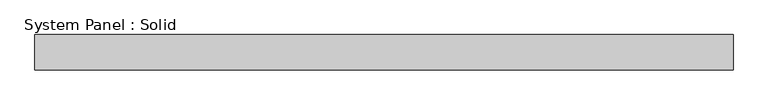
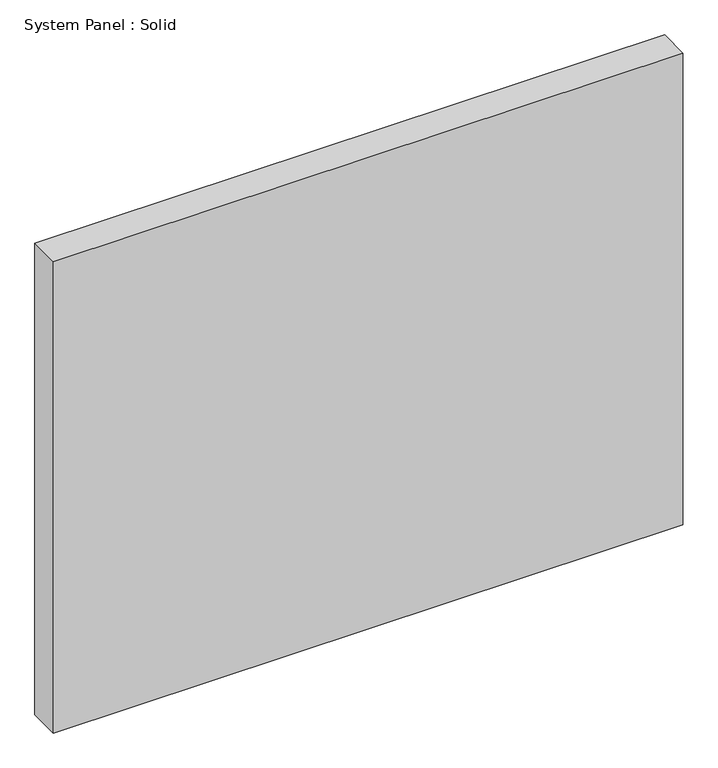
"""IFC4 building model written with IfcOpenShell, lengths in millimetres: plate geometry, System Panel : Solid."""

from ifc_helpers import new_model, si_unit, origin, origin_with_axes, place, context, project, spatial, polyline, outline, extrude, source, transform, mapped, element, save


def system_panel_solid_6791a60c(model_context):
    return source(origin(), model_context, "Body", "SweptSolid", [
        extrude(outline(polyline([(629.7083334, -44.45), (-629.7083334, -44.45), (-629.7083334, 19.05), (629.7083334, 19.05), (629.7083334, -44.45)])), origin_with_axes(), (0.0, 0.0, 1.0), 996.95),
    ])


if __name__ == "__main__":
    model = new_model("IFC4")
    model_context = context("Model", 3, world=origin())
    ifc_project = project(units=[si_unit("LENGTHUNIT", "METRE", prefix="MILLI")], contexts=[model_context])
    site = spatial("IfcSite", under=ifc_project)
    building = spatial("IfcBuilding", under=site)
    placement = place(None, origin())
    system_panel_solid_shape = system_panel_solid_6791a60c(model_context)
    element("IfcPlate", 1, ObjectType="System Panel : Solid", at=placement, inside=building, context=model_context, shape_type="MappedRepresentation", body=[
        mapped(system_panel_solid_shape, transform((0.0, 0.0, 0.0), x_axis=(1.0, 0.0, 0.0), y_axis=(0.0, 1.0, 0.0), z_axis=(0.0, 0.0, 1.0))),
    ])
    save(model, "model.ifc")
